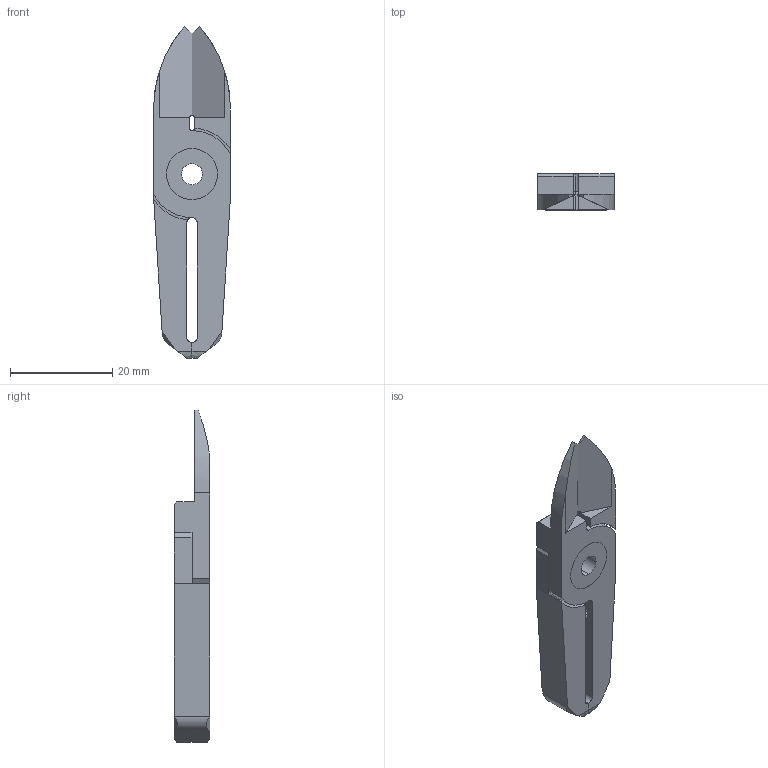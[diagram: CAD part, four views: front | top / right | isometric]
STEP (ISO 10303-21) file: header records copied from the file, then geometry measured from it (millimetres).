
FILE_DESCRIPTION (( 'STEP AP214' ), '1' );
FILE_NAME ('NT05AJY.STEP', '2019-11-28T09:29:44', ( '微软用户' ), ( '微软中国' ), 'SwSTEP 2.0', 'SolidWorks 2016', '' );
FILE_SCHEMA (( 'AUTOMOTIVE_DESIGN' ));
Length unit declared in the file: millimetre
Products named in the file (4): BR2; BR1; BS; NT05AJY
Assembly tree (3 placements, depth 2):
  NT05AJY
    BS
    BR1
    BR2
Bounding box: 15 x 7 x 65 mm (x, y, z)
Volume: 4111.4 mm3; surface area: 3973.7 mm2
Topology: 3 solids, 3 shells, 94 faces, 244 edges, 154 vertices
Faces by surface type: plane 42, cylinder 26, cone 16, bspline 10
Entity records: 3033 total; most frequent: CARTESIAN_POINT 658, ORIENTED_EDGE 480, DIRECTION 454, EDGE_CURVE 240, VERTEX_POINT 154, AXIS2_PLACEMENT_3D 152, LINE 150, VECTOR 150
